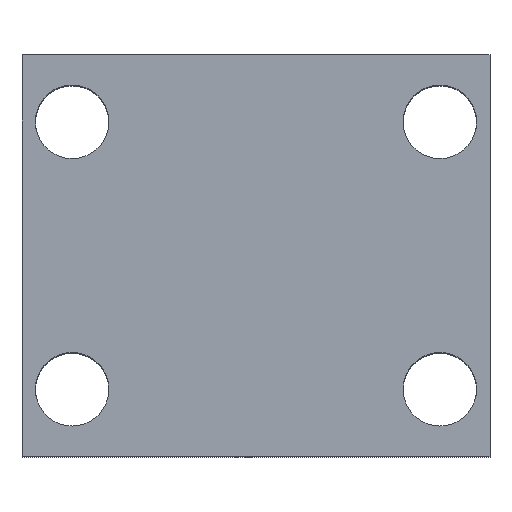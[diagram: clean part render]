
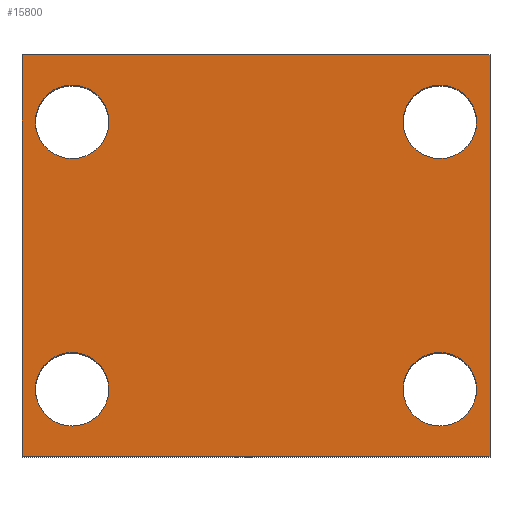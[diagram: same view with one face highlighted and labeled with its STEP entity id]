
A CAD part, top view. The second image highlights one B-rep face of the part: STEP entity #15800.
In plain terms, the highlighted planar face has unit normal (0, 0, 1).
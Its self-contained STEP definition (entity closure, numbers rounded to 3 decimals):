
#179 = AXIS2_PLACEMENT_3D ( 'NONE', #3532, #12782, #4848 ) ;
#192 = CIRCLE ( 'NONE', #14983, 11. ) ;
#371 = CIRCLE ( 'NONE', #8552, 11. ) ;
#413 = ORIENTED_EDGE ( 'NONE', *, *, #14295, .T. ) ;
#418 = CARTESIAN_POINT ( 'NONE',  ( -55., 20., 77.5 ) ) ;
#448 = FACE_BOUND ( 'NONE', #5375, .T. ) ;
#715 = LINE ( 'NONE', #17374, #14500 ) ;
#1234 = CARTESIAN_POINT ( 'NONE',  ( 44., 100., 77.5 ) ) ;
#1475 = EDGE_CURVE ( 'NONE', #14652, #1721, #192, .T. ) ;
#1613 = DIRECTION ( 'NONE',  ( -1., 0., 0. ) ) ;
#1645 = ORIENTED_EDGE ( 'NONE', *, *, #2764, .T. ) ;
#1658 = VECTOR ( 'NONE', #14048, 1000. ) ;
#1721 = VERTEX_POINT ( 'NONE', #12112 ) ;
#1738 = CARTESIAN_POINT ( 'NONE',  ( 66., 20., 77.5 ) ) ;
#1833 = CARTESIAN_POINT ( 'NONE',  ( -66., 20., 77.5 ) ) ;
#2126 = ORIENTED_EDGE ( 'NONE', *, *, #12471, .T. ) ;
#2397 = EDGE_CURVE ( 'NONE', #15696, #17202, #3347, .T. ) ;
#2650 = CARTESIAN_POINT ( 'NONE',  ( -66., 100., 77.5 ) ) ;
#2764 = EDGE_CURVE ( 'NONE', #17202, #15696, #371, .T. ) ;
#2936 = ORIENTED_EDGE ( 'NONE', *, *, #1475, .T. ) ;
#3040 = CARTESIAN_POINT ( 'NONE',  ( -44., 100., 77.5 ) ) ;
#3116 = CARTESIAN_POINT ( 'NONE',  ( 55., 100., 77.5 ) ) ;
#3219 = DIRECTION ( 'NONE',  ( 0., 0., -1. ) ) ;
#3235 = DIRECTION ( 'NONE',  ( 0., 0., -1. ) ) ;
#3347 = CIRCLE ( 'NONE', #13393, 11. ) ;
#3404 = CARTESIAN_POINT ( 'NONE',  ( 44., 20., 77.5 ) ) ;
#3532 = CARTESIAN_POINT ( 'NONE',  ( -55., 20., 77.5 ) ) ;
#3685 = DIRECTION ( 'NONE',  ( 0., -1., 0. ) ) ;
#3722 = VECTOR ( 'NONE', #3685, 1000. ) ;
#4427 = DIRECTION ( 'NONE',  ( -1., 0., 0. ) ) ;
#4448 = CARTESIAN_POINT ( 'NONE',  ( 55., 20., 77.5 ) ) ;
#4769 = LINE ( 'NONE', #5066, #14569 ) ;
#4772 = VERTEX_POINT ( 'NONE', #16403 ) ;
#4796 = AXIS2_PLACEMENT_3D ( 'NONE', #7319, #16684, #8618 ) ;
#4848 = DIRECTION ( 'NONE',  ( -1., 0., 0. ) ) ;
#5049 = EDGE_CURVE ( 'NONE', #14028, #5730, #17072, .T. ) ;
#5066 = CARTESIAN_POINT ( 'NONE',  ( -70., 120., 77.5 ) ) ;
#5375 = EDGE_LOOP ( 'NONE', ( #2936, #11400 ) ) ;
#5493 = CIRCLE ( 'NONE', #4796, 11. ) ;
#5662 = EDGE_LOOP ( 'NONE', ( #413, #17367 ) ) ;
#5730 = VERTEX_POINT ( 'NONE', #8579 ) ;
#5770 = DIRECTION ( 'NONE',  ( -1., 0., 0. ) ) ;
#5824 = AXIS2_PLACEMENT_3D ( 'NONE', #3116, #12348, #4427 ) ;
#5858 = CIRCLE ( 'NONE', #5824, 11. ) ;
#6024 = LINE ( 'NONE', #6091, #1658 ) ;
#6091 = CARTESIAN_POINT ( 'NONE',  ( 70., 120., 77.5 ) ) ;
#6149 = CARTESIAN_POINT ( 'NONE',  ( 55., 100., 77.5 ) ) ;
#6603 = DIRECTION ( 'NONE',  ( 1., 0., 0. ) ) ;
#6682 = ORIENTED_EDGE ( 'NONE', *, *, #15219, .T. ) ;
#6879 = ORIENTED_EDGE ( 'NONE', *, *, #9053, .F. ) ;
#7319 = CARTESIAN_POINT ( 'NONE',  ( 55., 20., 77.5 ) ) ;
#7472 = DIRECTION ( 'NONE',  ( -1., 0., 0. ) ) ;
#7515 = DIRECTION ( 'NONE',  ( 0., 0., -1. ) ) ;
#7538 = FACE_BOUND ( 'NONE', #12239, .T. ) ;
#7758 = VERTEX_POINT ( 'NONE', #3404 ) ;
#7944 = FACE_BOUND ( 'NONE', #8797, .T. ) ;
#8018 = EDGE_CURVE ( 'NONE', #14012, #4772, #6024, .T. ) ;
#8252 = VERTEX_POINT ( 'NONE', #9131 ) ;
#8344 = FACE_BOUND ( 'NONE', #5662, .T. ) ;
#8552 = AXIS2_PLACEMENT_3D ( 'NONE', #11139, #3235, #12480 ) ;
#8579 = CARTESIAN_POINT ( 'NONE',  ( -70., 0., 77.5 ) ) ;
#8618 = DIRECTION ( 'NONE',  ( -1., 0., 0. ) ) ;
#8740 = CARTESIAN_POINT ( 'NONE',  ( 70., 120., 77.5 ) ) ;
#8797 = EDGE_LOOP ( 'NONE', ( #6682, #14385 ) ) ;
#8811 = CIRCLE ( 'NONE', #179, 11. ) ;
#9053 = EDGE_CURVE ( 'NONE', #14028, #14012, #4769, .T. ) ;
#9131 = CARTESIAN_POINT ( 'NONE',  ( 66., 100., 77.5 ) ) ;
#9556 = DIRECTION ( 'NONE',  ( 0., 0., -1. ) ) ;
#9791 = VERTEX_POINT ( 'NONE', #1738 ) ;
#10202 = DIRECTION ( 'NONE',  ( -1., 0., 0. ) ) ;
#10744 = VERTEX_POINT ( 'NONE', #1234 ) ;
#11139 = CARTESIAN_POINT ( 'NONE',  ( -55., 100., 77.5 ) ) ;
#11400 = ORIENTED_EDGE ( 'NONE', *, *, #12732, .T. ) ;
#11701 = CIRCLE ( 'NONE', #13792, 11. ) ;
#11803 = AXIS2_PLACEMENT_3D ( 'NONE', #14911, #9556, #1613 ) ;
#11846 = ORIENTED_EDGE ( 'NONE', *, *, #8018, .F. ) ;
#11869 = CIRCLE ( 'NONE', #12364, 11. ) ;
#12112 = CARTESIAN_POINT ( 'NONE',  ( -44., 20., 77.5 ) ) ;
#12239 = EDGE_LOOP ( 'NONE', ( #15537, #1645 ) ) ;
#12348 = DIRECTION ( 'NONE',  ( 0., 0., -1. ) ) ;
#12364 = AXIS2_PLACEMENT_3D ( 'NONE', #4448, #13739, #5770 ) ;
#12471 = EDGE_CURVE ( 'NONE', #5730, #4772, #715, .T. ) ;
#12480 = DIRECTION ( 'NONE',  ( -1., 0., 0. ) ) ;
#12732 = EDGE_CURVE ( 'NONE', #1721, #14652, #8811, .T. ) ;
#12738 = EDGE_LOOP ( 'NONE', ( #2126, #11846, #6879, #12914 ) ) ;
#12782 = DIRECTION ( 'NONE',  ( 0., 0., -1. ) ) ;
#12914 = ORIENTED_EDGE ( 'NONE', *, *, #5049, .T. ) ;
#13393 = AXIS2_PLACEMENT_3D ( 'NONE', #15550, #7515, #16886 ) ;
#13534 = PLANE ( 'NONE',  #11803 ) ;
#13739 = DIRECTION ( 'NONE',  ( 0., 0., -1. ) ) ;
#13792 = AXIS2_PLACEMENT_3D ( 'NONE', #6149, #15505, #7472 ) ;
#14012 = VERTEX_POINT ( 'NONE', #8740 ) ;
#14028 = VERTEX_POINT ( 'NONE', #14255 ) ;
#14048 = DIRECTION ( 'NONE',  ( 0., -1., 0. ) ) ;
#14212 = FACE_OUTER_BOUND ( 'NONE', #12738, .T. ) ;
#14255 = CARTESIAN_POINT ( 'NONE',  ( -70., 120., 77.5 ) ) ;
#14295 = EDGE_CURVE ( 'NONE', #10744, #8252, #11701, .T. ) ;
#14302 = CARTESIAN_POINT ( 'NONE',  ( -70., 120., 77.5 ) ) ;
#14385 = ORIENTED_EDGE ( 'NONE', *, *, #16487, .T. ) ;
#14500 = VECTOR ( 'NONE', #6603, 1000. ) ;
#14569 = VECTOR ( 'NONE', #15762, 1000. ) ;
#14652 = VERTEX_POINT ( 'NONE', #1833 ) ;
#14911 = CARTESIAN_POINT ( 'NONE',  ( -70., 120., 77.5 ) ) ;
#14983 = AXIS2_PLACEMENT_3D ( 'NONE', #418, #3219, #10202 ) ;
#15219 = EDGE_CURVE ( 'NONE', #7758, #9791, #5493, .T. ) ;
#15505 = DIRECTION ( 'NONE',  ( 0., 0., -1. ) ) ;
#15537 = ORIENTED_EDGE ( 'NONE', *, *, #2397, .T. ) ;
#15550 = CARTESIAN_POINT ( 'NONE',  ( -55., 100., 77.5 ) ) ;
#15696 = VERTEX_POINT ( 'NONE', #2650 ) ;
#15762 = DIRECTION ( 'NONE',  ( 1., 0., 0. ) ) ;
#15800 = ADVANCED_FACE ( 'NONE', ( #7538, #448, #7944, #8344, #14212 ), #13534, .F. ) ;
#16403 = CARTESIAN_POINT ( 'NONE',  ( 70., 0., 77.5 ) ) ;
#16487 = EDGE_CURVE ( 'NONE', #9791, #7758, #11869, .T. ) ;
#16684 = DIRECTION ( 'NONE',  ( 0., 0., -1. ) ) ;
#16857 = EDGE_CURVE ( 'NONE', #8252, #10744, #5858, .T. ) ;
#16886 = DIRECTION ( 'NONE',  ( -1., 0., 0. ) ) ;
#17072 = LINE ( 'NONE', #14302, #3722 ) ;
#17202 = VERTEX_POINT ( 'NONE', #3040 ) ;
#17367 = ORIENTED_EDGE ( 'NONE', *, *, #16857, .T. ) ;
#17374 = CARTESIAN_POINT ( 'NONE',  ( -70., 0., 77.5 ) ) ;
